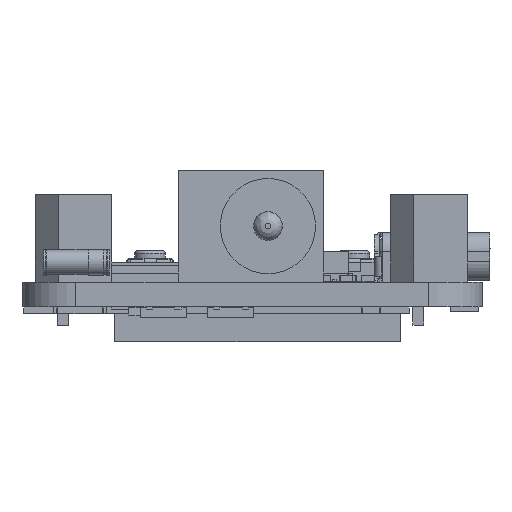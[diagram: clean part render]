
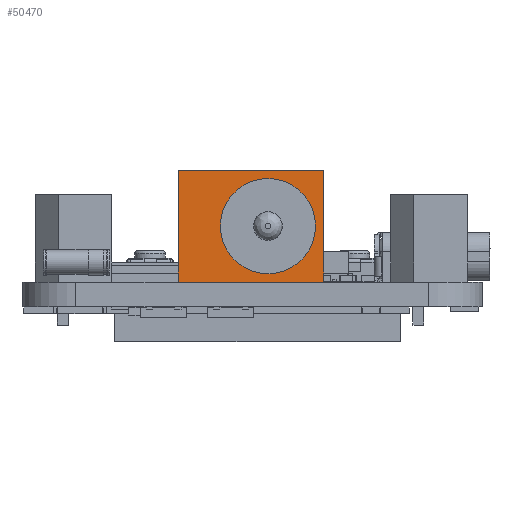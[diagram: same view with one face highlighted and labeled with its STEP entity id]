
A CAD part, left-side view. The second image highlights one B-rep face of the part: STEP entity #50470.
In plain terms, the highlighted planar face has unit normal (-1, 0, 0).
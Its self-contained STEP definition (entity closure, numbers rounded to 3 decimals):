
#2767=FACE_BOUND('',#7316,.T.);
#2987=CIRCLE('',#54226,3.1);
#4604=FACE_OUTER_BOUND('',#7315,.T.);
#7315=EDGE_LOOP('',(#35809,#35810,#35811,#35812));
#7316=EDGE_LOOP('',(#35813));
#10583=LINE('',#75861,#16420);
#10584=LINE('',#75863,#16421);
#10585=LINE('',#75865,#16422);
#10586=LINE('',#75866,#16423);
#16420=VECTOR('',#60630,1.);
#16421=VECTOR('',#60631,1.);
#16422=VECTOR('',#60632,1.);
#16423=VECTOR('',#60633,1.);
#22017=VERTEX_POINT('',#75852);
#22019=VERTEX_POINT('',#75859);
#22020=VERTEX_POINT('',#75860);
#22021=VERTEX_POINT('',#75862);
#22022=VERTEX_POINT('',#75864);
#27255=EDGE_CURVE('',#22017,#22017,#2987,.T.);
#27258=EDGE_CURVE('',#22019,#22020,#10583,.T.);
#27259=EDGE_CURVE('',#22019,#22021,#10584,.T.);
#27260=EDGE_CURVE('',#22021,#22022,#10585,.T.);
#27261=EDGE_CURVE('',#22020,#22022,#10586,.T.);
#35809=ORIENTED_EDGE('',*,*,#27258,.F.);
#35810=ORIENTED_EDGE('',*,*,#27259,.T.);
#35811=ORIENTED_EDGE('',*,*,#27260,.T.);
#35812=ORIENTED_EDGE('',*,*,#27261,.F.);
#35813=ORIENTED_EDGE('',*,*,#27255,.T.);
#48410=PLANE('',#54229);
#50470=ADVANCED_FACE('',(#4604,#2767),#48410,.F.);
#54226=AXIS2_PLACEMENT_3D('',#75853,#60621,#60622);
#54229=AXIS2_PLACEMENT_3D('',#75858,#60628,#60629);
#60621=DIRECTION('center_axis',(1.,0.,0.));
#60622=DIRECTION('ref_axis',(0.,-1.,0.));
#60628=DIRECTION('center_axis',(1.,0.,0.));
#60629=DIRECTION('ref_axis',(0.,-1.,0.));
#60630=DIRECTION('',(0.,0.,1.));
#60631=DIRECTION('',(0.,-1.,0.));
#60632=DIRECTION('',(0.,0.,1.));
#60633=DIRECTION('',(0.,-1.,0.));
#75852=CARTESIAN_POINT('',(-5.766,2.003,3.65));
#75853=CARTESIAN_POINT('Origin',(-5.766,-1.097,3.65));
#75858=CARTESIAN_POINT('Origin',(-5.766,4.737,0.));
#75859=CARTESIAN_POINT('',(-5.766,4.737,0.));
#75860=CARTESIAN_POINT('',(-5.766,4.737,7.3));
#75861=CARTESIAN_POINT('',(-5.766,4.737,0.));
#75862=CARTESIAN_POINT('',(-5.766,-4.737,0.));
#75863=CARTESIAN_POINT('',(-5.766,4.737,0.));
#75864=CARTESIAN_POINT('',(-5.766,-4.737,7.3));
#75865=CARTESIAN_POINT('',(-5.766,-4.737,0.));
#75866=CARTESIAN_POINT('',(-5.766,4.737,7.3));
